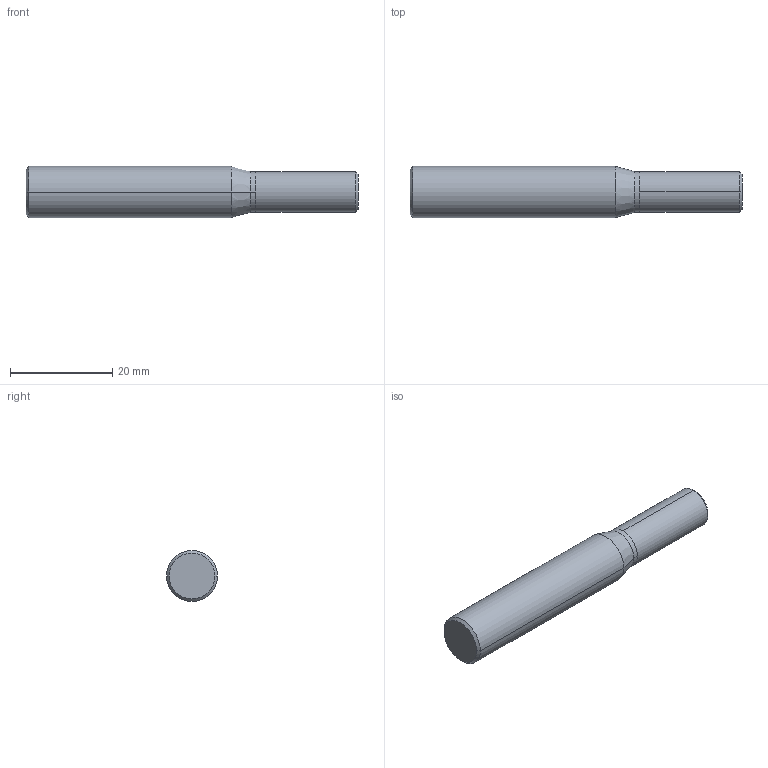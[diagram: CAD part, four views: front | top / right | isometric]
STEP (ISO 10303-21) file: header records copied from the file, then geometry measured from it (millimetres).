
FILE_DESCRIPTION (( 'STEP AP203' ), '1' );
FILE_NAME ('03-1778.STEP', '2021-09-10T07:27:18', ( 'USER' ), ( 'Hewlett-Packard Company' ), 'SwSTEP 2.0', 'SolidWorks 2014', '' );
FILE_SCHEMA (( 'CONFIG_CONTROL_DESIGN' ));
Length unit declared in the file: millimetre
Products named in the file (1): 03-1778
Bounding box: 65 x 10 x 10 mm (x, y, z)
Volume: 4449.8 mm3; surface area: 2114.2 mm2
Topology: 2 solids, 2 shells, 16 faces, 28 edges, 16 vertices
Faces by surface type: cylinder 6, cone 6, plane 4
Entity records: 459 total; most frequent: DIRECTION 78, CARTESIAN_POINT 61, ORIENTED_EDGE 56, AXIS2_PLACEMENT_3D 33, EDGE_CURVE 28, CIRCLE 16, FACE_OUTER_BOUND 16, VERTEX_POINT 16
